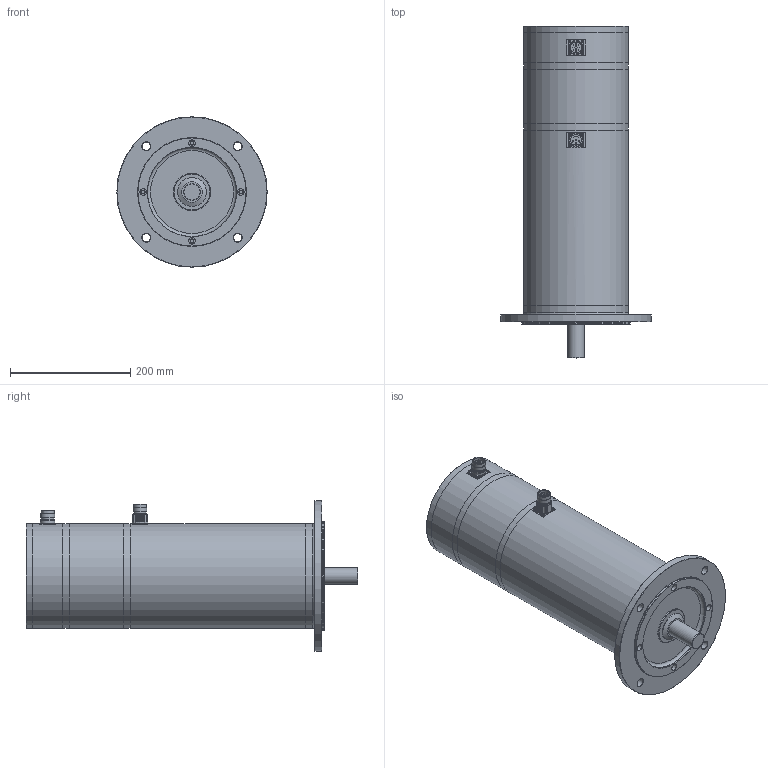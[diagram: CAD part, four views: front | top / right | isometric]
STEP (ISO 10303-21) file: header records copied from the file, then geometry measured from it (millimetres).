
FILE_DESCRIPTION(/* description */ (''),/* implementation_level */ '2;1');
FILE_NAME(/* name */ 'ksa8x16e_mc_ixx',/* time_stamp */ '2007-03-14T10:40:48+01:00',/* author */ (''),/* organization */ (''),/* preprocessor_version */ 'ST-DEVELOPER v8',/* originating_system */ 'UNIGRAPHICS SOLUTIONS - UNIGRAPHICS 18.0',/* authorisation */ '');
FILE_SCHEMA (('AUTOMOTIVE_DESIGN { 1 2 10303 214 0 1 1 1 }'));
Length unit declared in the file: millimetre
Products named in the file (12): 014261_0; 064305_0; 089286_0; 089285_0; 118030_0; 014260_0; 06331401_0; DIN3760_org_A30x42x7_0; Rotor_SA 84.. E_0; Gehaeuse SA 84.. E_0; 118025_0; KSA8412_E-MC-I27_0
Assembly tree (12 placements, depth 2):
  KSA8412_E-MC-I27_0
    118025_0
    Gehaeuse SA 84.. E_0
    Rotor_SA 84.. E_0
    DIN3760_org_A30x42x7_0
    06331401_0
    014260_0
    118030_0  x2
    089285_0
    089286_0
    064305_0
    014261_0
Bounding box: 250 x 552 x 250 mm (x, y, z)
Volume: 4496969 mm3; surface area: 825167.8 mm2
Topology: 12 solids, 12 shells, 300 faces, 733 edges, 466 vertices
Faces by surface type: cylinder 146, plane 81, cone 35, sphere 20, torus 18
Full cylindrical faces by diameter (mm): 1 x16, 2 x4, 2.7 x8, 6.4 x4, 11 x4, 14 x4, 18 x2, 20 x4, 21 x2, 21.5 x2, 23 x4, 24 x1, 27.52 x1, 27.9 x1, 28 x1, 30 x2, 30.3 x1, 38 x1, 39 x1, 42 x2, 48 x1, 56 x1, 60 x1, 62 x1, 140 x1, 148 x1, 150 x2, 151 x2, 174 x7, 180 x1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
Entity records: 7778 total; most frequent: DIRECTION 1446, CARTESIAN_POINT 1248, ORIENTED_EDGE 946, AXIS2_PLACEMENT_3D 666, EDGE_LOOP 533, EDGE_CURVE 473, VERTEX_POINT 386, CIRCLE 356
